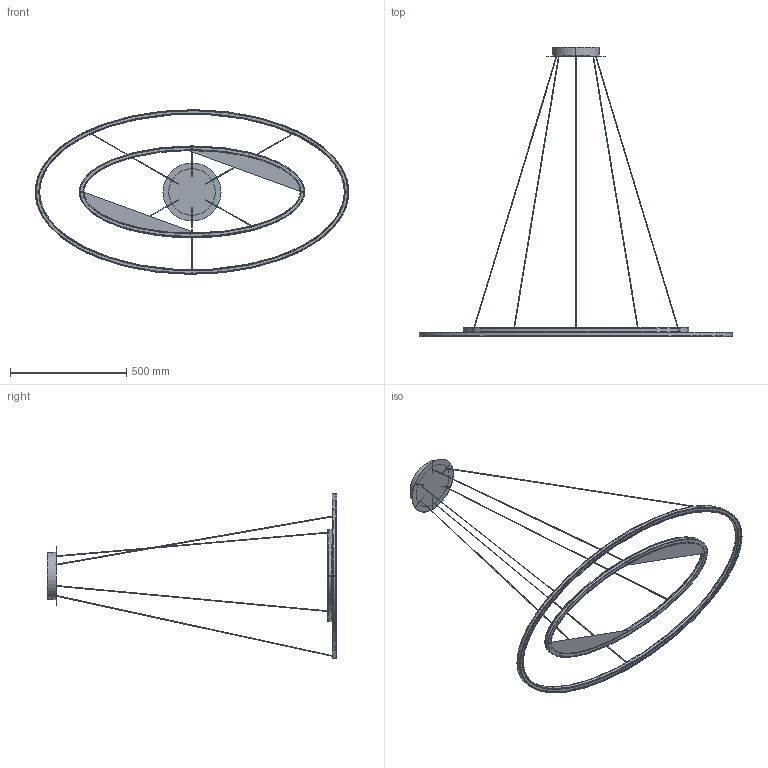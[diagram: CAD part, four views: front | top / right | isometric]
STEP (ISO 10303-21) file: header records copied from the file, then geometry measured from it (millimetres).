
FILE_DESCRIPTION (( 'STEP AP214' ), '1' );
FILE_NAME ('3D_ELLISSE_PENDANT_DOUBLE.STEP', '2018-02-23T11:46:24', ( 'Utente' ), ( '' ), 'SwSTEP 2.0', 'SolidWorks 2016', '' );
FILE_SCHEMA (( 'AUTOMOTIVE_DESIGN' ));
Length unit declared in the file: millimetre
Products named in the file (6): 010COM701300_Piatto rosone Ø250 6 TAGLI-1^3D_ELLISSE_PENDANT_DOUBLE; 010COM701210_Rosone Ø200 rovesciato-1^3D_ELLISSE_PENDANT_DOUBLE; Group5^3D_ELLISSE_PENDANT_DOUBLE; Group4^3D_ELLISSE_PENDANT_DOUBLE; Group3^3D_ELLISSE_PENDANT_DOUBLE; 3D_ELLISSE_PENDANT_DOUBLE
Assembly tree (5 placements, depth 2):
  3D_ELLISSE_PENDANT_DOUBLE
    Group3^3D_ELLISSE_PENDANT_DOUBLE
    Group4^3D_ELLISSE_PENDANT_DOUBLE
    Group5^3D_ELLISSE_PENDANT_DOUBLE
    010COM701210_Rosone Ø200 rovesciato-1^3D_ELLISSE_PENDANT_DOUBLE
    010COM701300_Piatto rosone Ø250 6 TAGLI-1^3D_ELLISSE_PENDANT_DOUBLE
Bounding box: 1350 x 1246.91 x 708.89 mm (x, y, z)
Volume: 2157226.7 mm3; surface area: 1147645.8 mm2
Topology: 13 solids, 13 shells, 697 faces, 1973 edges, 1296 vertices
Faces by surface type: cylinder 383, plane 240, bspline 72, torus 2
Entity records: 36875 total; most frequent: CARTESIAN_POINT 18038, ORIENTED_EDGE 3946, DIRECTION 3905, EDGE_CURVE 1973, AXIS2_PLACEMENT_3D 1419, VERTEX_POINT 1296, VECTOR 1067, LINE 1067
